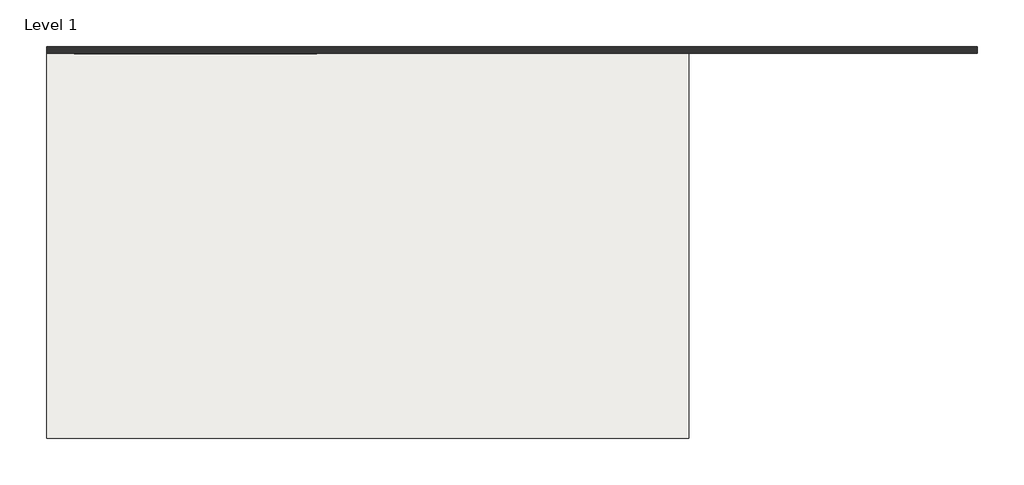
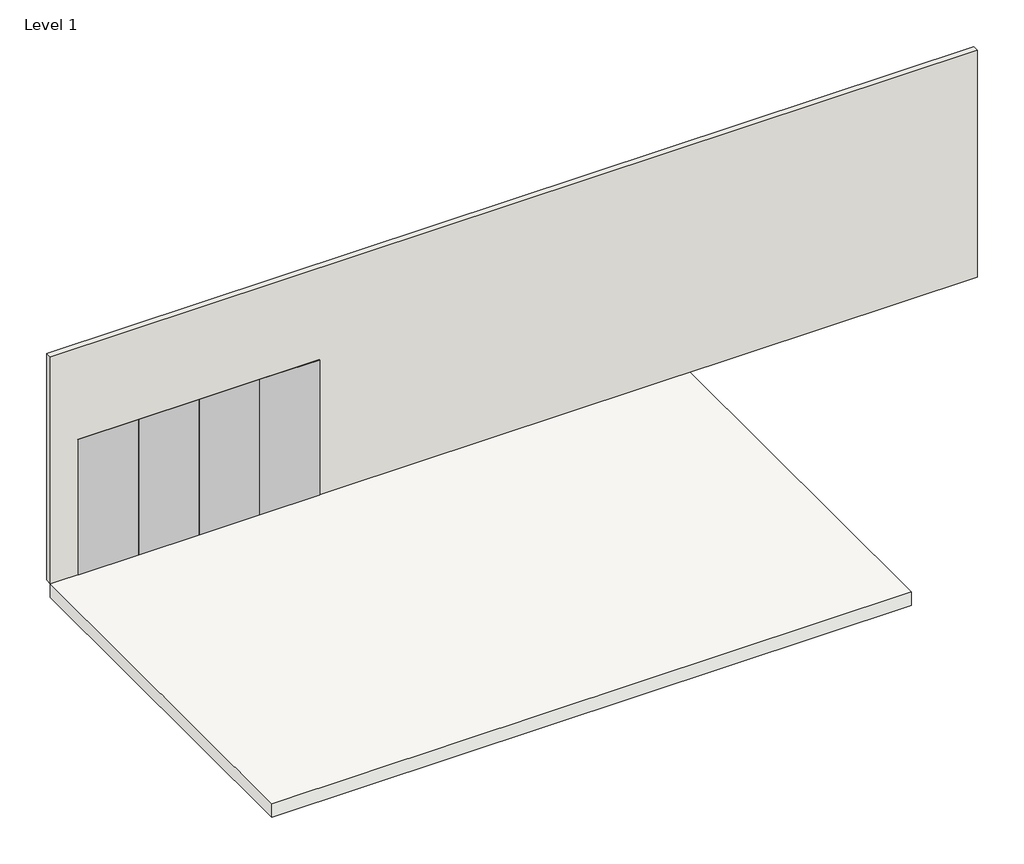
# One storey: 4 proxies, 1 slab, 1 wall.
"""IFC4 building model written with IfcOpenShell, lengths in millimetres."""

from ifc_helpers import new_model, si_unit, frame, origin, origin_with_axes, place, context, project, spatial, polyline, outline, extrude, transform, mapped, element, save
from components import proxy_45_0_5_ca7729e5

model = new_model("IFC4")

# Units and contexts
model_context = context("Model", 3, world=origin())
ifc_project = project(units=[si_unit("LENGTHUNIT", "METRE", prefix="MILLI")], contexts=[model_context])

# Site, building, storey
site = spatial("IfcSite", under=ifc_project)
building = spatial("IfcBuilding", under=site)
storey = spatial("IfcBuildingStorey", under=building, Name="Level 1", Elevation=0.0)

# Proxies
placement = place(None, origin())
proxy_45_0_5_shape = proxy_45_0_5_ca7729e5(model_context)
element("IfcBuildingElementProxy", 1, Name="Wall-Panel-Kirei-45_Panels : 45 (0.5)", ObjectType="Wall-Panel-Kirei-45_Panels : 45 (0.5)", at=placement, inside=storey, context=model_context, shape_type="MappedRepresentation", body=[
    mapped(proxy_45_0_5_shape, transform((-9558.2871015, 6040.5236992, 1365.25), x_axis=(1.0, 0.0, 0.0), y_axis=(0.0, 0.0, 1.0), z_axis=(0.0, -1.0, 0.0))),
])
element("IfcBuildingElementProxy", 2, Name="Wall-Panel-Kirei-45_Panels : 45 (1.0)", ObjectType="Wall-Panel-Kirei-45_Panels : 45 (1.0)", at=placement, inside=storey, context=model_context, shape_type="MappedRepresentation", body=[
    mapped(proxy_45_0_5_shape, transform((-8407.6472578, 6040.5236992, 1365.25), x_axis=(1.0, 0.0, 0.0), y_axis=(0.0, 0.0, 1.0), z_axis=(0.0, -1.0, 0.0))),
])
element("IfcBuildingElementProxy", 3, Name="Wall-Panel-Kirei-45_Panels : 45 (2.0)", ObjectType="Wall-Panel-Kirei-45_Panels : 45 (2.0)", at=placement, inside=storey, context=model_context, shape_type="MappedRepresentation", body=[
    mapped(proxy_45_0_5_shape, transform((-7257.007414, 6040.5236992, 1365.25), x_axis=(1.0, 0.0, 0.0), y_axis=(0.0, 0.0, 1.0), z_axis=(0.0, -1.0, 0.0))),
])
element("IfcBuildingElementProxy", 4, Name="Wall-Panel-Kirei-45_Panels : 45 (4.0)", ObjectType="Wall-Panel-Kirei-45_Panels : 45 (4.0)", at=placement, inside=storey, context=model_context, shape_type="MappedRepresentation", body=[
    mapped(proxy_45_0_5_shape, transform((-6106.3675703, 6040.5236992, 1365.25), x_axis=(1.0, 0.0, 0.0), y_axis=(0.0, 0.0, 1.0), z_axis=(0.0, -1.0, 0.0))),
])

# Slab
element("IfcSlab", 5, ObjectType="Wood Joist 10\" - Wood Finish", at=placement, inside=storey, context=model_context, shape_type="SweptSolid", body=[
    extrude(outline(polyline([(-10693.6472578, -1274.6763008), (-10693.6472578, 6040.5236992), (1498.3527422, 6040.5236992), (1498.3527422, -1274.6763008), (-10693.6472578, -1274.6763008)])), frame((0.0, 0.0, -273.05), z_axis=(0.0, 0.0, 1.0), x_axis=(1.0, 0.0, 0.0)), (0.0, 0.0, 1.0), 273.05),
])

# Wall
element("IfcWall", 6, ObjectType="Interior - 5\" Partition (2-hr)", at=placement, inside=storey, context=model_context, shape_type="SweptSolid", body=[
    extrude(outline(polyline([(6984.7527422, 6040.5236992), (-10693.6472578, 6040.5236992), (-10693.6472578, 6167.5236992), (6984.7527422, 6167.5236992), (6984.7527422, 6040.5236992)])), origin_with_axes(), (0.0, 0.0, 1.0), 4572.0),
])

save(model, "model.ifc")
